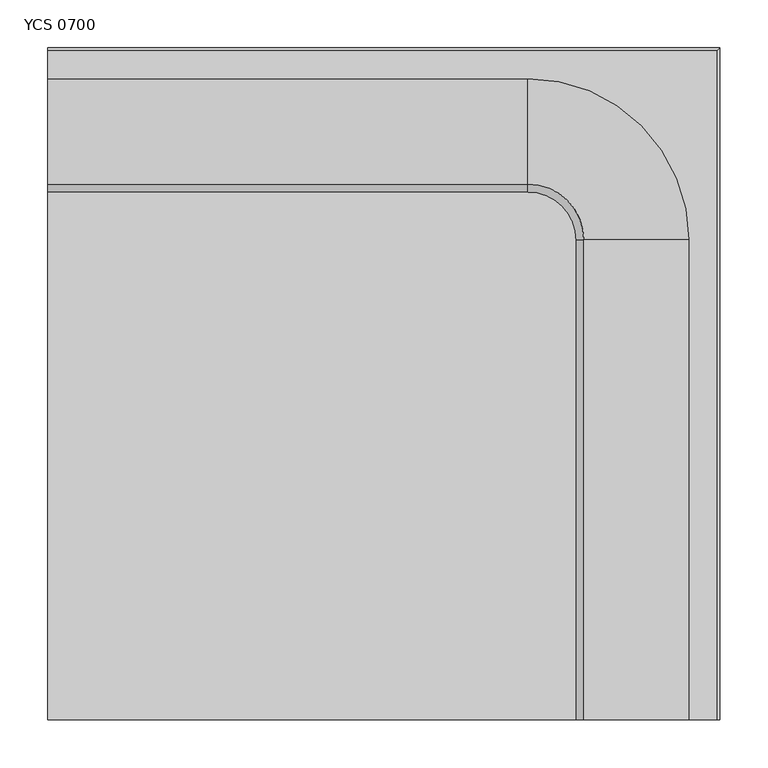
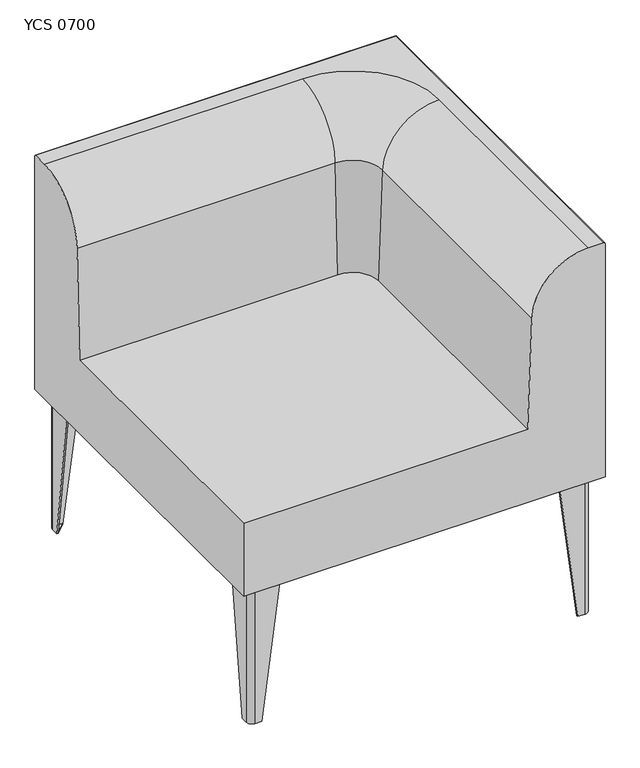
"""IFC4 building model written with IfcOpenShell, lengths in millimetres: furniture geometry, Mobiliário_Mobiliário de Escritório_LinhaYoung_Sofa Canto (Aço) - YCS_Marelli : YCS 0700."""

from ifc_helpers import new_model, si_unit, point, frame, frame_2d, origin, origin_with_axes, place, context, project, spatial, polyline, circle_curve, ellipse_curve, trimmed, segment, composite_curve, outline, extrude, source, transform, mapped, element, save
from ifc_brep_helpers import plane_surface, cylinder_surface, revolved_surface, advanced_brep


def ycs_0700_0be64c8a(model_context):
    return source(origin(), model_context, "Body", "SolidModel", [
        advanced_brep(
        [(20.0, 75.0, 280.0), (20.0, 25.0, 280.0), (30.0, 15.0, 280.0), (80.0, 15.0, 280.0), (80.0, 18.0, 280.0), (30.0, 18.0, 280.0), (23.0, 25.0, 280.0), (23.0, 75.0, 280.0), (20.0, 39.0, 0.0), (23.0, 39.0, 0.0), (23.0, 25.0, 0.0), (30.0, 18.0, 0.0), (44.0, 18.0, 0.0), (44.0, 15.0, 0.0), (30.0, 15.0, 0.0), (20.0, 25.0, 0.0)],
        [
            (0, 1),
            (1, 2, circle_curve(frame((30.0, 25.0, 280.0), z_axis=(0.0, 0.0, 1.0), x_axis=(0.0, -1.0, 0.0)), 10.0)),
            (2, 3),
            (3, 4),
            (4, 5),
            (5, 6, circle_curve(frame((30.0, 25.0, 280.0), z_axis=(0.0, 0.0, -1.0), x_axis=(-1.0, 0.0, 0.0)), 7.0)),
            (6, 7),
            (7, 0),
            (8, 9),
            (9, 10),
            (10, 11, circle_curve(frame((30.0, 25.0, 0.0), z_axis=(0.0, 0.0, 1.0), x_axis=(-1.0, 0.0, 0.0)), 7.0)),
            (11, 12),
            (12, 13),
            (13, 14),
            (14, 15, circle_curve(frame((30.0, 25.0, 0.0), z_axis=(0.0, 0.0, -1.0), x_axis=(0.0, -1.0, 0.0)), 10.0)),
            (15, 8),
            (15, 1),
            (0, 8),
            (14, 2),
            (13, 3),
            (12, 4),
            (11, 5),
            (10, 6),
            (9, 7),
        ],
        [
            plane_surface(frame((38.25, 33.25, 280.0), z_axis=(0.0, 0.0, 1.0), x_axis=(0.0, -1.0, 0.0))),
            plane_surface(frame((29.25, 24.25, 0.0), z_axis=(0.0, 0.0, -1.0), x_axis=(0.0, -1.0, 0.0))),
            plane_surface(frame((20.0, 32.0, 0.0), z_axis=(-1.0, 0.0, 0.0), x_axis=(0.0, -1.0, 0.0))),
            cylinder_surface(frame((30.0, 25.0, 0.0), z_axis=(0.0, 0.0, 1.0), x_axis=(0.0, -1.0, 0.0)), 10.0),
            plane_surface(frame((37.0, 15.0, 0.0), z_axis=(0.0, -1.0, 0.0), x_axis=(1.0, 0.0, 0.0))),
            plane_surface(frame((44.0, 16.5, 0.0), z_axis=(0.9918357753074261, 0.0, -0.12752174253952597), x_axis=(0.0, 1.0, 0.0))),
            plane_surface(frame((37.0, 18.0, 0.0), z_axis=(0.0, 1.0, 0.0), x_axis=(-1.0, 0.0, 0.0))),
            revolved_surface(polyline([(23.0, 25.0, 280.0), (23.0, 25.0, 0.0)]), (30.0, 25.0, 0.0), (0.0, 0.0, 1.0)),
            plane_surface(frame((23.0, 32.0, 0.0), z_axis=(1.0, 0.0, 0.0), x_axis=(0.0, 1.0, 0.0))),
            plane_surface(frame((21.5, 39.0, 0.0), z_axis=(0.0, 0.9918357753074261, -0.12752174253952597), x_axis=(-1.0, 0.0, 0.0))),
        ],
        [
            (0, [[1, 2, 3, 4, 5, 6, 7, 8]]),
            (1, [[9, 10, 11, 12, 13, 14, 15, 16]]),
            (2, [[-16, 17, -1, 18]]),
            (3, [[-15, 19, -2, -17]]),
            (4, [[-14, 20, -3, -19]]),
            (5, [[-13, 21, -4, -20]]),
            (6, [[-12, 22, -5, -21]]),
            (7, [[-11, 23, -6, -22]]),
            (8, [[-10, 24, -7, -23]]),
            (9, [[-9, -18, -8, -24]]),
        ],
    ),
        advanced_brep(
        [(680.0, 75.0, 280.0), (677.0, 75.0, 280.0), (677.0, 25.0, 280.0), (670.0, 18.0, 280.0), (620.0, 18.0, 280.0), (620.0, 15.0, 280.0), (670.0, 15.0, 280.0), (680.0, 25.0, 280.0), (680.0, 39.0, 0.0), (680.0, 25.0, 0.0), (670.0, 15.0, 0.0), (656.0, 15.0, 0.0), (656.0, 18.0, 0.0), (670.0, 18.0, 0.0), (677.0, 25.0, 0.0), (677.0, 39.0, 0.0)],
        [
            (0, 1),
            (1, 2),
            (2, 3, circle_curve(frame((670.0, 25.0, 280.0), z_axis=(0.0, 0.0, -1.0), x_axis=(0.0, -1.0, 0.0)), 7.0)),
            (3, 4),
            (4, 5),
            (5, 6),
            (6, 7, circle_curve(frame((670.0, 25.0, 280.0), z_axis=(0.0, 0.0, 1.0), x_axis=(1.0, 0.0, 0.0)), 10.0)),
            (7, 0),
            (8, 9),
            (9, 10, circle_curve(frame((670.0, 25.0, 0.0), z_axis=(0.0, 0.0, -1.0), x_axis=(1.0, 0.0, 0.0)), 10.0)),
            (10, 11),
            (11, 12),
            (12, 13),
            (13, 14, circle_curve(frame((670.0, 25.0, 0.0), z_axis=(0.0, 0.0, 1.0), x_axis=(0.0, -1.0, 0.0)), 7.0)),
            (14, 15),
            (15, 8),
            (8, 0),
            (7, 9),
            (6, 10),
            (5, 11),
            (4, 12),
            (3, 13),
            (2, 14),
            (1, 15),
        ],
        [
            plane_surface(frame((661.75, 33.25, 280.0), z_axis=(0.0, 0.0, 1.0), x_axis=(-1.0, 0.0, 0.0))),
            plane_surface(frame((670.75, 24.25, 0.0), z_axis=(0.0, 0.0, -1.0), x_axis=(-1.0, 0.0, 0.0))),
            plane_surface(frame((680.0, 32.0, 0.0), z_axis=(1.0, 0.0, 0.0), x_axis=(0.0, 1.0, 0.0))),
            cylinder_surface(frame((670.0, 25.0, 0.0), z_axis=(0.0, 0.0, 1.0), x_axis=(1.0, 0.0, 0.0)), 10.0),
            plane_surface(frame((663.0, 15.0, 0.0), z_axis=(0.0, -1.0, 0.0), x_axis=(1.0, 0.0, 0.0))),
            plane_surface(frame((656.0, 16.5, 0.0), z_axis=(-0.9918357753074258, 0.0, -0.1275217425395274), x_axis=(0.0, -1.0, 0.0))),
            plane_surface(frame((663.0, 18.0, 0.0), z_axis=(0.0, 1.0, 0.0), x_axis=(-1.0, 0.0, 0.0))),
            revolved_surface(polyline([(670.0, 18.0, 280.0), (670.0, 18.0, 0.0)]), (670.0, 25.0, 0.0), (0.0, 0.0, 1.0)),
            plane_surface(frame((677.0, 32.0, 0.0), z_axis=(-1.0, 0.0, 0.0), x_axis=(0.0, -1.0, 0.0))),
            plane_surface(frame((678.5, 39.0, 0.0), z_axis=(0.0, 0.9918357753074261, -0.12752174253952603), x_axis=(-1.0, 0.0, 0.0))),
        ],
        [
            (0, [[1, 2, 3, 4, 5, 6, 7, 8]]),
            (1, [[9, 10, 11, 12, 13, 14, 15, 16]]),
            (2, [[-9, 17, -8, 18]]),
            (3, [[-10, -18, -7, 19]]),
            (4, [[-11, -19, -6, 20]]),
            (5, [[-12, -20, -5, 21]]),
            (6, [[-13, -21, -4, 22]]),
            (7, [[-14, -22, -3, 23]]),
            (8, [[-15, -23, -2, 24]]),
            (9, [[-16, -24, -1, -17]]),
        ],
    ),
        advanced_brep(
        [(20.0, 625.0, 280.0), (23.0, 625.0, 280.0), (23.0, 675.0, 280.0), (30.0, 682.0, 280.0), (80.0, 682.0, 280.0), (80.0, 685.0, 280.0), (30.0, 685.0, 280.0), (20.0, 675.0, 280.0), (20.0, 661.0, 0.0), (20.0, 675.0, 0.0), (30.0, 685.0, 0.0), (44.0, 685.0, 0.0), (44.0, 682.0, 0.0), (30.0, 682.0, 0.0), (23.0, 675.0, 0.0), (23.0, 661.0, 0.0)],
        [
            (0, 1),
            (1, 2),
            (2, 3, circle_curve(frame((30.0, 675.0, 280.0), z_axis=(0.0, 0.0, -1.0), x_axis=(0.0, 1.0, 0.0)), 7.0)),
            (3, 4),
            (4, 5),
            (5, 6),
            (6, 7, circle_curve(frame((30.0, 675.0, 280.0), z_axis=(0.0, 0.0, 1.0), x_axis=(-1.0, 0.0, 0.0)), 10.0)),
            (7, 0),
            (8, 9),
            (9, 10, circle_curve(frame((30.0, 675.0, 0.0), z_axis=(0.0, 0.0, -1.0), x_axis=(-1.0, 0.0, 0.0)), 10.0)),
            (10, 11),
            (11, 12),
            (12, 13),
            (13, 14, circle_curve(frame((30.0, 675.0, 0.0), z_axis=(0.0, 0.0, 1.0), x_axis=(0.0, 1.0, 0.0)), 7.0)),
            (14, 15),
            (15, 8),
            (8, 0),
            (7, 9),
            (6, 10),
            (5, 11),
            (4, 12),
            (3, 13),
            (2, 14),
            (1, 15),
        ],
        [
            plane_surface(frame((38.25, 666.75, 280.0), z_axis=(0.0, 0.0, 1.0), x_axis=(1.0, 0.0, 0.0))),
            plane_surface(frame((29.25, 675.75, 0.0), z_axis=(0.0, 0.0, -1.0), x_axis=(1.0, 0.0, 0.0))),
            plane_surface(frame((20.0, 668.0, 0.0), z_axis=(-1.0, 0.0, 0.0), x_axis=(0.0, -1.0, 0.0))),
            cylinder_surface(frame((30.0, 675.0, 0.0), z_axis=(0.0, 0.0, 1.0), x_axis=(-1.0, 0.0, 0.0)), 10.0),
            plane_surface(frame((37.0, 685.0, 0.0), z_axis=(0.0, 1.0, 0.0), x_axis=(-1.0, 0.0, 0.0))),
            plane_surface(frame((44.0, 683.5, 0.0), z_axis=(0.9918357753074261, 0.0, -0.12752174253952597), x_axis=(0.0, 1.0, 0.0))),
            plane_surface(frame((37.0, 682.0, 0.0), z_axis=(0.0, -1.0, 0.0), x_axis=(1.0, 0.0, 0.0))),
            revolved_surface(polyline([(30.0, 682.0, 280.0), (30.0, 682.0, 0.0)]), (30.0, 675.0, 0.0), (0.0, 0.0, 1.0)),
            plane_surface(frame((23.0, 668.0, 0.0), z_axis=(1.0, 0.0, 0.0), x_axis=(0.0, 1.0, 0.0))),
            plane_surface(frame((21.5, 661.0, 0.0), z_axis=(0.0, -0.9918357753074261, -0.127521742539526), x_axis=(1.0, 0.0, 0.0))),
        ],
        [
            (0, [[1, 2, 3, 4, 5, 6, 7, 8]]),
            (1, [[9, 10, 11, 12, 13, 14, 15, 16]]),
            (2, [[-9, 17, -8, 18]]),
            (3, [[-10, -18, -7, 19]]),
            (4, [[-11, -19, -6, 20]]),
            (5, [[-12, -20, -5, 21]]),
            (6, [[-13, -21, -4, 22]]),
            (7, [[-14, -22, -3, 23]]),
            (8, [[-15, -23, -2, 24]]),
            (9, [[-16, -24, -1, -17]]),
        ],
    ),
        advanced_brep(
        [(680.0, 625.0, 280.0), (680.0, 675.0, 280.0), (670.0, 685.0, 280.0), (620.0, 685.0, 280.0), (620.0, 682.0, 280.0), (670.0, 682.0, 280.0), (677.0, 675.0, 280.0), (677.0, 625.0, 280.0), (680.0, 661.0, 0.0), (677.0, 661.0, 0.0), (677.0, 675.0, 0.0), (670.0, 682.0, 0.0), (656.0, 682.0, 0.0), (656.0, 685.0, 0.0), (670.0, 685.0, 0.0), (680.0, 675.0, 0.0)],
        [
            (0, 1),
            (1, 2, circle_curve(frame((670.0, 675.0, 280.0), z_axis=(0.0, 0.0, 1.0), x_axis=(0.0, 1.0, 0.0)), 10.0)),
            (2, 3),
            (3, 4),
            (4, 5),
            (5, 6, circle_curve(frame((670.0, 675.0, 280.0), z_axis=(0.0, 0.0, -1.0), x_axis=(1.0, 0.0, 0.0)), 7.0)),
            (6, 7),
            (7, 0),
            (8, 9),
            (9, 10),
            (10, 11, circle_curve(frame((670.0, 675.0, 0.0), z_axis=(0.0, 0.0, 1.0), x_axis=(1.0, 0.0, 0.0)), 7.0)),
            (11, 12),
            (12, 13),
            (13, 14),
            (14, 15, circle_curve(frame((670.0, 675.0, 0.0), z_axis=(0.0, 0.0, -1.0), x_axis=(0.0, 1.0, 0.0)), 10.0)),
            (15, 8),
            (15, 1),
            (0, 8),
            (14, 2),
            (13, 3),
            (12, 4),
            (11, 5),
            (10, 6),
            (9, 7),
        ],
        [
            plane_surface(frame((661.75, 666.75, 280.0), z_axis=(0.0, 0.0, 1.0), x_axis=(0.0, 1.0, 0.0))),
            plane_surface(frame((670.75, 675.75, 0.0), z_axis=(0.0, 0.0, -1.0), x_axis=(0.0, 1.0, 0.0))),
            plane_surface(frame((680.0, 668.0, 0.0), z_axis=(1.0, 0.0, 0.0), x_axis=(0.0, 1.0, 0.0))),
            cylinder_surface(frame((670.0, 675.0, 0.0), z_axis=(0.0, 0.0, 1.0), x_axis=(0.0, 1.0, 0.0)), 10.0),
            plane_surface(frame((663.0, 685.0, 0.0), z_axis=(0.0, 1.0, 0.0), x_axis=(-1.0, 0.0, 0.0))),
            plane_surface(frame((656.0, 683.5, 0.0), z_axis=(-0.9918357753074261, 0.0, -0.127521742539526), x_axis=(0.0, -1.0, 0.0))),
            plane_surface(frame((663.0, 682.0, 0.0), z_axis=(0.0, -1.0, 0.0), x_axis=(1.0, 0.0, 0.0))),
            revolved_surface(polyline([(677.0, 675.0, 280.0), (677.0, 675.0, 0.0)]), (670.0, 675.0, 0.0), (0.0, 0.0, 1.0)),
            plane_surface(frame((677.0, 668.0, 0.0), z_axis=(-1.0, 0.0, 0.0), x_axis=(0.0, -1.0, 0.0))),
            plane_surface(frame((678.5, 661.0, 0.0), z_axis=(0.0, -0.9918357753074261, -0.127521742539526), x_axis=(1.0, 0.0, 0.0))),
        ],
        [
            (0, [[1, 2, 3, 4, 5, 6, 7, 8]]),
            (1, [[9, 10, 11, 12, 13, 14, 15, 16]]),
            (2, [[-16, 17, -1, 18]]),
            (3, [[-15, 19, -2, -17]]),
            (4, [[-14, 20, -3, -19]]),
            (5, [[-13, 21, -4, -20]]),
            (6, [[-12, 22, -5, -21]]),
            (7, [[-11, 23, -6, -22]]),
            (8, [[-10, 24, -7, -23]]),
            (9, [[-9, -18, -8, -24]]),
        ],
    ),
        extrude(outline(composite_curve([segment(polyline([(23.0, 39.0), (44.0, 18.0), (30.0, 18.0)]), True, "CONTINUOUS"), segment(trimmed(circle_curve(frame_2d((30.0, 25.0)), 7.0), [point((30.0, 18.0))], [point((23.0, 25.0))], False, "CARTESIAN"), True, "CONTINUOUS"), segment(polyline([(23.0, 25.0), (23.0, 39.0)]), True, "CONTINUOUS")], self_intersect=False)), origin_with_axes(), (0.0, 0.0, 1.0), 1.0),
        extrude(outline(composite_curve([segment(polyline([(23.0, 661.0), (23.0, 675.0)]), True, "CONTINUOUS"), segment(trimmed(circle_curve(frame_2d((30.0, 675.0)), 7.0), [point((23.0, 675.0))], [point((30.0, 682.0))], False, "CARTESIAN"), True, "CONTINUOUS"), segment(polyline([(30.0, 682.0), (44.0, 682.0), (23.0, 661.0)]), True, "CONTINUOUS")], self_intersect=False)), origin_with_axes(), (0.0, 0.0, 1.0), 1.0),
        extrude(outline(composite_curve([segment(polyline([(677.0, 39.0), (677.0, 25.0)]), True, "CONTINUOUS"), segment(trimmed(circle_curve(frame_2d((670.0, 25.0)), 7.0), [point((677.0, 25.0))], [point((670.0, 18.0))], False, "CARTESIAN"), True, "CONTINUOUS"), segment(polyline([(670.0, 18.0), (656.0, 18.0), (677.0, 39.0)]), True, "CONTINUOUS")], self_intersect=False)), origin_with_axes(), (0.0, 0.0, 1.0), 1.0),
        extrude(outline(composite_curve([segment(polyline([(677.0, 661.0), (656.0, 682.0), (670.0, 682.0)]), True, "CONTINUOUS"), segment(trimmed(circle_curve(frame_2d((670.0, 675.0)), 7.0), [point((670.0, 682.0))], [point((677.0, 675.0))], False, "CARTESIAN"), True, "CONTINUOUS"), segment(polyline([(677.0, 675.0), (677.0, 661.0)]), True, "CONTINUOUS")], self_intersect=False)), origin_with_axes(), (0.0, 0.0, 1.0), 1.0),
        extrude(outline(composite_curve([segment(trimmed(circle_curve(frame_2d((30.0, 25.0)), 7.0), [point((30.0, 18.0))], [point((23.0, 25.0))], False, "CARTESIAN"), True, "CONTINUOUS"), segment(polyline([(23.0, 25.0), (23.0, 93.0)]), True, "CONTINUOUS"), segment(trimmed(circle_curve(frame_2d((28.0, 93.0)), 5.0), [point((23.0, 93.0))], [point((28.0, 98.0))], False, "CARTESIAN"), True, "CONTINUOUS"), segment(polyline([(28.0, 98.0), (51.9545624, 98.0)]), True, "CONTINUOUS"), segment(trimmed(circle_curve(frame_2d((52.6241051, 89.931755)), 8.0959783), [point((51.9545624, 98.0))], [point((58.520382, 95.479618))], False, "CARTESIAN"), True, "CONTINUOUS"), segment(polyline([(58.520382, 95.479618), (100.479618, 53.520382)]), True, "CONTINUOUS"), segment(trimmed(circle_curve(frame_2d((94.931755, 47.6241051)), 8.0959783), [point((100.479618, 53.520382))], [point((103.0, 46.9545624))], False, "CARTESIAN"), True, "CONTINUOUS"), segment(polyline([(103.0, 46.9545624), (103.0, 23.0)]), True, "CONTINUOUS"), segment(trimmed(circle_curve(frame_2d((98.0, 23.0)), 5.0), [point((103.0, 23.0))], [point((98.0, 18.0))], False, "CARTESIAN"), True, "CONTINUOUS"), segment(polyline([(98.0, 18.0), (30.0, 18.0)]), True, "CONTINUOUS")], self_intersect=False)), frame((0.0, 0.0, 279.0), z_axis=(0.0, 0.0, 1.0), x_axis=(1.0, 0.0, 0.0)), (0.0, 0.0, 1.0), 1.0),
        extrude(outline(composite_curve([segment(polyline([(30.0, 682.0), (98.0, 682.0)]), True, "CONTINUOUS"), segment(trimmed(circle_curve(frame_2d((98.0, 677.0)), 5.0), [point((98.0, 682.0))], [point((103.0, 677.0))], False, "CARTESIAN"), True, "CONTINUOUS"), segment(polyline([(103.0, 677.0), (103.0, 653.0454376)]), True, "CONTINUOUS"), segment(trimmed(circle_curve(frame_2d((94.931755, 652.3758949)), 8.0959783), [point((103.0, 653.0454376))], [point((100.479618, 646.479618))], False, "CARTESIAN"), True, "CONTINUOUS"), segment(polyline([(100.479618, 646.479618), (58.520382, 604.520382)]), True, "CONTINUOUS"), segment(trimmed(circle_curve(frame_2d((52.6241051, 610.068245)), 8.0959783), [point((58.520382, 604.520382))], [point((51.9545624, 602.0))], False, "CARTESIAN"), True, "CONTINUOUS"), segment(polyline([(51.9545624, 602.0), (28.0, 602.0)]), True, "CONTINUOUS"), segment(trimmed(circle_curve(frame_2d((28.0, 607.0)), 5.0), [point((28.0, 602.0))], [point((23.0, 607.0))], False, "CARTESIAN"), True, "CONTINUOUS"), segment(polyline([(23.0, 607.0), (23.0, 675.0)]), True, "CONTINUOUS"), segment(trimmed(circle_curve(frame_2d((30.0, 675.0)), 7.0), [point((23.0, 675.0))], [point((30.0, 682.0))], False, "CARTESIAN"), True, "CONTINUOUS")], self_intersect=False)), frame((0.0, 0.0, 279.0), z_axis=(0.0, 0.0, 1.0), x_axis=(1.0, 0.0, 0.0)), (0.0, 0.0, 1.0), 1.0),
        extrude(outline(composite_curve([segment(polyline([(670.0, 18.0), (602.0, 18.0)]), True, "CONTINUOUS"), segment(trimmed(circle_curve(frame_2d((602.0, 23.0)), 5.0), [point((602.0, 18.0))], [point((597.0, 23.0))], False, "CARTESIAN"), True, "CONTINUOUS"), segment(polyline([(597.0, 23.0), (597.0, 46.9545624)]), True, "CONTINUOUS"), segment(trimmed(circle_curve(frame_2d((605.068245, 47.6241051)), 8.0959783), [point((597.0, 46.9545624))], [point((599.520382, 53.520382))], False, "CARTESIAN"), True, "CONTINUOUS"), segment(polyline([(599.520382, 53.520382), (601.479618, 95.479618)]), True, "CONTINUOUS"), segment(trimmed(circle_curve(frame_2d((607.3758949, 89.931755)), 8.0959783), [point((601.479618, 95.479618))], [point((608.0454376, 98.0))], False, "CARTESIAN"), True, "CONTINUOUS"), segment(polyline([(608.0454376, 98.0), (632.0, 98.0)]), True, "CONTINUOUS"), segment(trimmed(circle_curve(frame_2d((632.0, 53.0)), 45.0), [point((632.0, 98.0))], [point((677.0, 53.0))], False, "CARTESIAN"), True, "CONTINUOUS"), segment(polyline([(677.0, 53.0), (677.0, 25.0)]), True, "CONTINUOUS"), segment(trimmed(circle_curve(frame_2d((670.0, 25.0)), 7.0), [point((677.0, 25.0))], [point((670.0, 18.0))], False, "CARTESIAN"), True, "CONTINUOUS")], self_intersect=False)), frame((0.0, 0.0, 279.0), z_axis=(0.0, 0.0, 1.0), x_axis=(1.0, 0.0, 0.0)), (0.0, 0.0, 1.0), 1.0),
        extrude(outline(composite_curve([segment(trimmed(circle_curve(frame_2d((670.0, 675.0)), 7.0), [point((670.0, 682.0))], [point((677.0, 675.0))], False, "CARTESIAN"), True, "CONTINUOUS"), segment(polyline([(677.0, 675.0), (677.0, 607.0)]), True, "CONTINUOUS"), segment(trimmed(circle_curve(frame_2d((672.0, 607.0)), 5.0), [point((677.0, 607.0))], [point((672.0, 602.0))], False, "CARTESIAN"), True, "CONTINUOUS"), segment(polyline([(672.0, 602.0), (648.0454376, 602.0)]), True, "CONTINUOUS"), segment(trimmed(circle_curve(frame_2d((647.3758949, 610.068245)), 8.0959783), [point((648.0454376, 602.0))], [point((641.479618, 604.520382))], False, "CARTESIAN"), True, "CONTINUOUS"), segment(polyline([(641.479618, 604.520382), (599.520382, 646.479618)]), True, "CONTINUOUS"), segment(trimmed(circle_curve(frame_2d((605.068245, 652.3758949)), 8.0959783), [point((599.520382, 646.479618))], [point((597.0, 653.0454376))], False, "CARTESIAN"), True, "CONTINUOUS"), segment(polyline([(597.0, 653.0454376), (597.0, 677.0)]), True, "CONTINUOUS"), segment(trimmed(circle_curve(frame_2d((602.0, 677.0)), 5.0), [point((597.0, 677.0))], [point((602.0, 682.0))], False, "CARTESIAN"), True, "CONTINUOUS"), segment(polyline([(602.0, 682.0), (670.0, 682.0)]), True, "CONTINUOUS")], self_intersect=False)), frame((0.0, 0.0, 279.0), z_axis=(0.0, 0.0, 1.0), x_axis=(1.0, 0.0, 0.0)), (0.0, 0.0, 1.0), 1.0),
        advanced_brep(
        [(0.0, 668.0, 760.0), (500.0, 668.0, 760.0), (668.0, 500.0, 760.0), (668.0, 0.0, 760.0), (696.9835797, 0.0, 760.0), (696.9835797, 696.9835797, 760.0), (0.0, 696.9835797, 760.0), (0.0, 700.0, 280.0), (700.0, 700.0, 280.0), (700.0, 0.0, 280.0), (0.0, 0.0, 280.0), (0.0, 700.0, 756.9835797), (700.0, 700.0, 756.9835797), (700.0, 0.0, 756.9835797), (558.2568376, 0.0, 654.223651), (550.0, 0.0, 430.0), (0.0, 0.0, 430.0), (558.2568376, 500.0, 654.223651), (550.0, 500.0, 430.0), (500.0, 558.2568376, 654.223651), (500.0, 550.0, 430.0), (0.0, 550.0, 430.0), (0.0, 558.2568376, 654.223651)],
        [
            (0, 1),
            (1, 2, circle_curve(frame((500.0, 500.0, 760.0), z_axis=(0.0, 0.0, -1.0), x_axis=(1.0, 0.0, 0.0)), 168.0)),
            (2, 3),
            (3, 4),
            (4, 5),
            (5, 6),
            (6, 0),
            (7, 8),
            (8, 9),
            (9, 10),
            (10, 7),
            (7, 11),
            (11, 12),
            (12, 8),
            (12, 13),
            (13, 9),
            (3, 14, circle_curve(frame((668.0, 0.0, 650.1824561), z_axis=(0.0, -1.0, 0.0), x_axis=(1.0, 0.0, 0.0)), 109.8175439)),
            (14, 15),
            (15, 16),
            (16, 10),
            (13, 4, circle_curve(frame((696.9835797, 0.0, 756.9835797), z_axis=(0.0, -1.0, 0.0), x_axis=(1.0, 0.0, 0.0)), 3.0164203)),
            (2, 17, circle_curve(frame((668.0, 500.0, 650.1824561), z_axis=(0.0, -1.0, 0.0), x_axis=(1.0, 0.0, 0.0)), 109.8175439)),
            (17, 14),
            (17, 18),
            (18, 15),
            (1, 19, circle_curve(frame((500.0, 668.0, 650.1824561), z_axis=(1.0, 0.0, 0.0), x_axis=(0.0, 1.0, 0.0)), 109.8175439)),
            (19, 17, circle_curve(frame((500.0, 500.0, 654.223651), z_axis=(0.0, 0.0, -1.0), x_axis=(1.0, 0.0, 0.0)), 58.2568376)),
            (19, 20),
            (20, 18, circle_curve(frame((500.0, 500.0, 430.0), z_axis=(0.0, 0.0, -1.0), x_axis=(1.0, 0.0, 0.0)), 50.0)),
            (16, 21),
            (21, 22),
            (22, 0, circle_curve(frame((0.0, 668.0, 650.1824561), z_axis=(-1.0, 0.0, 0.0), x_axis=(0.0, 1.0, 0.0)), 109.8175439)),
            (6, 11, circle_curve(frame((0.0, 696.9835797, 756.9835797), z_axis=(-1.0, 0.0, 0.0), x_axis=(0.0, 1.0, 0.0)), 3.0164203)),
            (22, 19),
            (21, 20),
            (12, 5, ellipse_curve(frame((696.9835797, 696.9835797, 756.9835797), z_axis=(0.7071067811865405, -0.7071067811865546, 0.0), x_axis=(0.7071067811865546, 0.7071067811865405, 0.0)), 4.2658626, 3.0164203)),
        ],
        [
            plane_surface(frame((500.0, 700.0, 760.0), z_axis=(0.0, 0.0, 1.0), x_axis=(-1.0, 0.0, 0.0))),
            plane_surface(frame((500.0, 700.0, 280.0), z_axis=(0.0, 0.0, -1.0), x_axis=(1.0, 0.0, 0.0))),
            plane_surface(frame((700.0, 700.0, 760.0), z_axis=(0.0, 1.0, 0.0), x_axis=(0.0, 0.0, -1.0))),
            plane_surface(frame((700.0, 500.0, 760.0), z_axis=(1.0, 0.0, 0.0), x_axis=(0.0, 0.0, -1.0))),
            plane_surface(frame((550.0, 0.0, 0.0), z_axis=(0.0, -1.0, 0.0), x_axis=(0.0, 0.0, 1.0))),
            cylinder_surface(frame((668.0, 0.0, 650.1824561), z_axis=(0.0, -1.0, 0.0), x_axis=(1.0, 0.0, 0.0)), 109.8175439),
            plane_surface(frame((558.2568376, 0.0, 654.223651), z_axis=(-0.9993226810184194, 0.0, 0.036799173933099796), x_axis=(0.0, 1.0, 0.0))),
            revolved_surface(trimmed(ellipse_curve(frame((668.0, 500.0, 650.1824561), z_axis=(0.0, -1.0, 0.0), x_axis=(1.0, 0.0, 0.0)), 109.8175439, 109.8175439), [point((668.0, 500.0, 760.0))], [point((558.2568376, 500.0, 654.223651))], True, "CARTESIAN"), (500.0, 500.0, 0.0), (0.0, 0.0, 1.0)),
            revolved_surface(polyline([(558.2568376, 500.0, 654.223651), (550.0, 500.0, 430.0)]), (500.0, 500.0, 0.0), (0.0, 0.0, 1.0)),
            plane_surface(frame((0.0, 550.0, 0.0), z_axis=(-1.0, 0.0, 0.0), x_axis=(0.0, 0.0, 1.0))),
            cylinder_surface(frame((500.0, 668.0, 650.1824561), z_axis=(1.0, 0.0, 0.0), x_axis=(0.0, 1.0, 0.0)), 109.8175439),
            plane_surface(frame((500.0, 558.2568376, 654.223651), z_axis=(0.0, -0.9993226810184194, 0.036799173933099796), x_axis=(-1.0, 0.0, 0.0))),
            cylinder_surface(frame((696.9835797, 700.0, 756.9835797), z_axis=(0.0, 1.0, 0.0), x_axis=(1.0, 0.0, 0.0)), 3.0164203),
            cylinder_surface(frame((700.0, 696.9835797, 756.9835797), z_axis=(1.0, 0.0, 0.0), x_axis=(0.0, 1.0, 0.0)), 3.0164203),
            plane_surface(frame((0.0, 550.0, 430.0), z_axis=(0.0, 0.0, 1.0), x_axis=(-1.0, 0.0, 0.0))),
        ],
        [
            (0, [[1, 2, 3, 4, 5, 6, 7]]),
            (1, [[8, 9, 10, 11]]),
            (2, [[-8, 12, 13, 14]]),
            (3, [[-9, -14, 15, 16]]),
            (4, [[17, 18, 19, 20, -10, -16, 21, -4]]),
            (5, [[-17, -3, 22, 23]]),
            (6, [[-18, -23, 24, 25]]),
            (7, [[-2, 26, 27, -22]]),
            (8, [[-24, -27, 28, 29]]),
            (9, [[-11, -20, 30, 31, 32, -7, 33, -12]]),
            (10, [[-1, -32, 34, -26]]),
            (11, [[-28, -34, -31, 35]]),
            (12, [[-15, 36, -5, -21]]),
            (13, [[-6, -36, -13, -33]]),
            (14, [[-30, -19, -25, -29, -35]]),
        ],
    ),
    ])


if __name__ == "__main__":
    model = new_model("IFC4")
    model_context = context("Model", 3, world=origin())
    ifc_project = project(units=[si_unit("LENGTHUNIT", "METRE", prefix="MILLI")], contexts=[model_context])
    site = spatial("IfcSite", under=ifc_project)
    building = spatial("IfcBuilding", under=site)
    placement = place(None, origin())
    ycs_0700_shape = ycs_0700_0be64c8a(model_context)
    element("IfcFurniture", 1, ObjectType="Mobiliário_Mobiliário de Escritório_LinhaYoung_Sofa Canto (Aço) - YCS_Marelli : YCS 0700", at=placement, inside=building, context=model_context, shape_type="MappedRepresentation", body=[
        mapped(ycs_0700_shape, transform((0.0, 0.0, 0.0), x_axis=(1.0, 0.0, 0.0), y_axis=(0.0, 1.0, 0.0), z_axis=(0.0, 0.0, 1.0))),
    ])
    save(model, "model.ifc")
